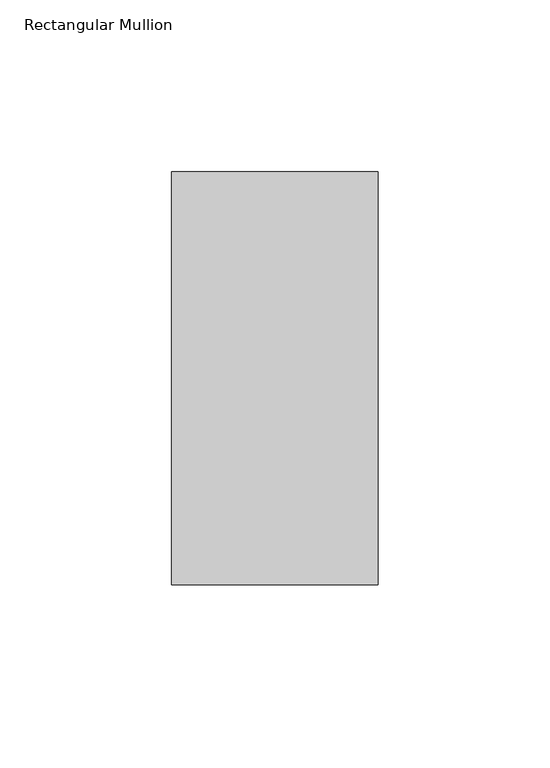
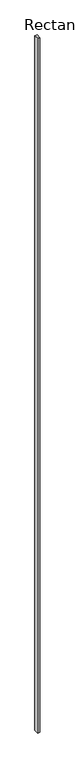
"""IFC4 building model written with IfcOpenShell, lengths in millimetres: member geometry, Rectangular Mullion : Terça."""

from ifc_helpers import new_model, si_unit, frame, origin, place, context, project, spatial, polyline, outline, extrude, source, transform, mapped, element, save


def rectangular_mullion_f617a3aa(model_context):
    return source(origin(), model_context, "Body", "SweptSolid", [
        extrude(outline(polyline([(-60.0, -120.0), (-60.0, 0.0), (0.0, 0.0), (0.0, -120.0), (-60.0, -120.0)])), frame((0.0, 0.0, -19150.0), z_axis=(0.0, 0.0, 1.0), x_axis=(1.0, 0.0, 0.0)), (0.0, 0.0, 1.0), 19150.0),
    ])


if __name__ == "__main__":
    model = new_model("IFC4")
    model_context = context("Model", 3, world=origin())
    ifc_project = project(units=[si_unit("LENGTHUNIT", "METRE", prefix="MILLI")], contexts=[model_context])
    site = spatial("IfcSite", under=ifc_project)
    building = spatial("IfcBuilding", under=site)
    placement = place(None, origin())
    rectangular_mullion_shape = rectangular_mullion_f617a3aa(model_context)
    element("IfcMember", 1, ObjectType="Rectangular Mullion : Terça", at=placement, inside=building, context=model_context, shape_type="MappedRepresentation", body=[
        mapped(rectangular_mullion_shape, transform((0.0, 0.0, 0.0), x_axis=(1.0, 0.0, 0.0), y_axis=(0.0, 1.0, 0.0), z_axis=(0.0, 0.0, 1.0))),
    ])
    save(model, "model.ifc")
